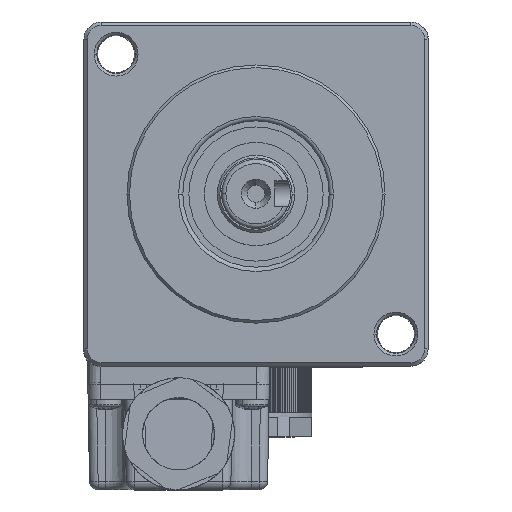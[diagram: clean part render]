
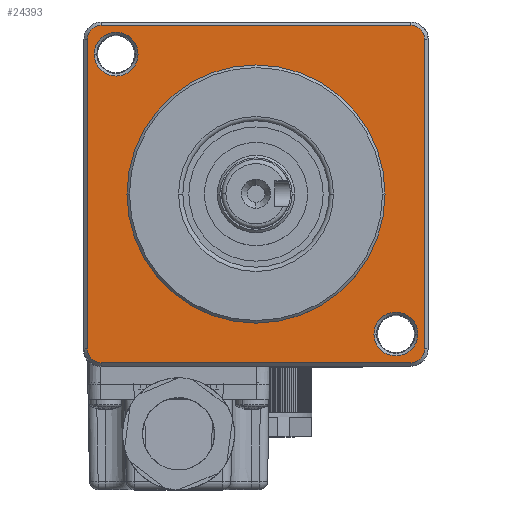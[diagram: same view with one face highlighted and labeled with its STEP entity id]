
A CAD part, top view. The second image highlights one B-rep face of the part: STEP entity #24393.
In plain terms, the highlighted planar face has unit normal (0, 0, 1).
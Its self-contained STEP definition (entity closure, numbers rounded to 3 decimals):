
#241 = EDGE_CURVE ( 'NONE', #67957, #12774, #49997, .T. ) ;
#278 = EDGE_CURVE ( 'NONE', #62401, #26087, #63991, .T. ) ;
#1220 = VERTEX_POINT ( 'NONE', #43561 ) ;
#1836 = DIRECTION ( 'NONE',  ( 1., 0., 0. ) ) ;
#2008 = EDGE_CURVE ( 'NONE', #62886, #67957, #4629, .T. ) ;
#2217 = CIRCLE ( 'NONE', #45152, 1.6 ) ;
#2393 = DIRECTION ( 'NONE',  ( 1., 0., 0. ) ) ;
#3080 = VECTOR ( 'NONE', #3566, 1000. ) ;
#3206 = AXIS2_PLACEMENT_3D ( 'NONE', #47846, #16298, #53107 ) ;
#3566 = DIRECTION ( 'NONE',  ( 1., 0., 0. ) ) ;
#3790 = AXIS2_PLACEMENT_3D ( 'NONE', #5331, #42102, #10603 ) ;
#3921 = VERTEX_POINT ( 'NONE', #47456 ) ;
#3958 = CIRCLE ( 'NONE', #3790, 2.55 ) ;
#4210 = CARTESIAN_POINT ( 'NONE',  ( 1.169, -18.047, 110. ) ) ;
#4629 = CIRCLE ( 'NONE', #42537, 1.6 ) ;
#4783 = ORIENTED_EDGE ( 'NONE', *, *, #52860, .F. ) ;
#5331 = CARTESIAN_POINT ( 'NONE',  ( -15.095, 17.817, 110. ) ) ;
#5695 = DIRECTION ( 'NONE',  ( 0., 0., 1. ) ) ;
#7079 = CARTESIAN_POINT ( 'NONE',  ( -16.831, -18.047, 110. ) ) ;
#7296 = CARTESIAN_POINT ( 'NONE',  ( 20.769, -16.447, 110. ) ) ;
#7355 = LINE ( 'NONE', #38043, #33640 ) ;
#9429 = AXIS2_PLACEMENT_3D ( 'NONE', #32770, #64439, #58972 ) ;
#9638 = VERTEX_POINT ( 'NONE', #55727 ) ;
#10175 = ORIENTED_EDGE ( 'NONE', *, *, #62814, .F. ) ;
#10603 = DIRECTION ( 'NONE',  ( 1., 0., 0. ) ) ;
#10720 = FACE_BOUND ( 'NONE', #61857, .T. ) ;
#10938 = EDGE_LOOP ( 'NONE', ( #4783, #25754, #53647, #11115, #61492, #49354, #51238, #40666 ) ) ;
#11115 = ORIENTED_EDGE ( 'NONE', *, *, #56154, .F. ) ;
#11189 = CARTESIAN_POINT ( 'NONE',  ( -18.431, 19.553, 110. ) ) ;
#11504 = CIRCLE ( 'NONE', #57834, 15. ) ;
#11889 = CIRCLE ( 'NONE', #64934, 15. ) ;
#12638 = CARTESIAN_POINT ( 'NONE',  ( 19.982, -14.71, 110. ) ) ;
#12774 = VERTEX_POINT ( 'NONE', #11189 ) ;
#12858 = CARTESIAN_POINT ( 'NONE',  ( -12.545, 17.817, 110. ) ) ;
#12930 = CARTESIAN_POINT ( 'NONE',  ( -13.831, 1.553, 110. ) ) ;
#13108 = EDGE_CURVE ( 'NONE', #9638, #23682, #44998, .T. ) ;
#15681 = DIRECTION ( 'NONE',  ( 0., 0., 1. ) ) ;
#16298 = DIRECTION ( 'NONE',  ( 0., 0., 1. ) ) ;
#16669 = DIRECTION ( 'NONE',  ( 0., 0., 1. ) ) ;
#17435 = LINE ( 'NONE', #4210, #28180 ) ;
#17908 = CARTESIAN_POINT ( 'NONE',  ( 19.169, -18.047, 110. ) ) ;
#18037 = CARTESIAN_POINT ( 'NONE',  ( 19.169, 19.553, 110. ) ) ;
#20616 = EDGE_LOOP ( 'NONE', ( #48180, #10175 ) ) ;
#22755 = CARTESIAN_POINT ( 'NONE',  ( -16.831, -16.447, 110. ) ) ;
#23326 = DIRECTION ( 'NONE',  ( 1., 0., 0. ) ) ;
#23682 = VERTEX_POINT ( 'NONE', #46009 ) ;
#24293 = AXIS2_PLACEMENT_3D ( 'NONE', #65365, #33864, #2393 ) ;
#24393 = ADVANCED_FACE ( 'NONE', ( #51018, #10720, #63361, #49379 ), #31645, .T. ) ;
#25754 = ORIENTED_EDGE ( 'NONE', *, *, #47053, .F. ) ;
#26087 = VERTEX_POINT ( 'NONE', #55669 ) ;
#27123 = ORIENTED_EDGE ( 'NONE', *, *, #49747, .F. ) ;
#28103 = DIRECTION ( 'NONE',  ( 1., 0., 0. ) ) ;
#28180 = VECTOR ( 'NONE', #67199, 1000. ) ;
#28793 = VERTEX_POINT ( 'NONE', #17908 ) ;
#29590 = DIRECTION ( 'NONE',  ( 0., 0., -1. ) ) ;
#31252 = CIRCLE ( 'NONE', #3206, 2.55 ) ;
#31645 = PLANE ( 'NONE',  #46365 ) ;
#31863 = CARTESIAN_POINT ( 'NONE',  ( 1.169, 1.553, 110. ) ) ;
#32770 = CARTESIAN_POINT ( 'NONE',  ( 17.432, -14.71, 110. ) ) ;
#33269 = DIRECTION ( 'NONE',  ( 0., 0., -1. ) ) ;
#33640 = VECTOR ( 'NONE', #43607, 1000. ) ;
#33864 = DIRECTION ( 'NONE',  ( 0., 0., 1. ) ) ;
#34857 = AXIS2_PLACEMENT_3D ( 'NONE', #64796, #33269, #1836 ) ;
#35988 = VECTOR ( 'NONE', #49848, 1000. ) ;
#36434 = EDGE_CURVE ( 'NONE', #65425, #3921, #31252, .T. ) ;
#37034 = EDGE_CURVE ( 'NONE', #1220, #58488, #7355, .T. ) ;
#37078 = CIRCLE ( 'NONE', #58756, 1.6 ) ;
#37446 = EDGE_CURVE ( 'NONE', #65795, #64903, #11504, .T. ) ;
#37639 = CARTESIAN_POINT ( 'NONE',  ( -18.431, -16.447, 110. ) ) ;
#38043 = CARTESIAN_POINT ( 'NONE',  ( 20.769, 1.553, 110. ) ) ;
#39141 = EDGE_CURVE ( 'NONE', #12774, #9638, #2217, .T. ) ;
#40666 = ORIENTED_EDGE ( 'NONE', *, *, #2008, .F. ) ;
#41003 = ORIENTED_EDGE ( 'NONE', *, *, #61810, .F. ) ;
#41636 = CIRCLE ( 'NONE', #24293, 2.55 ) ;
#42102 = DIRECTION ( 'NONE',  ( 0., 0., 1. ) ) ;
#42450 = DIRECTION ( 'NONE',  ( 1., 0., 0. ) ) ;
#42537 = AXIS2_PLACEMENT_3D ( 'NONE', #22755, #59555, #28103 ) ;
#43561 = CARTESIAN_POINT ( 'NONE',  ( 20.769, 19.553, 110. ) ) ;
#43607 = DIRECTION ( 'NONE',  ( 0., -1., 0. ) ) ;
#44998 = LINE ( 'NONE', #45601, #3080 ) ;
#45152 = AXIS2_PLACEMENT_3D ( 'NONE', #61061, #29590, #66380 ) ;
#45601 = CARTESIAN_POINT ( 'NONE',  ( 1.169, 21.153, 110. ) ) ;
#46009 = CARTESIAN_POINT ( 'NONE',  ( 19.169, 21.153, 110. ) ) ;
#46365 = AXIS2_PLACEMENT_3D ( 'NONE', #31863, #5695, #42450 ) ;
#47053 = EDGE_CURVE ( 'NONE', #58488, #28793, #54037, .T. ) ;
#47216 = CARTESIAN_POINT ( 'NONE',  ( 1.169, 1.553, 110. ) ) ;
#47456 = CARTESIAN_POINT ( 'NONE',  ( -17.645, 17.817, 110. ) ) ;
#47846 = CARTESIAN_POINT ( 'NONE',  ( -15.095, 17.817, 110. ) ) ;
#48149 = ORIENTED_EDGE ( 'NONE', *, *, #36434, .F. ) ;
#48180 = ORIENTED_EDGE ( 'NONE', *, *, #37446, .F. ) ;
#48222 = CARTESIAN_POINT ( 'NONE',  ( 1.169, 1.553, 110. ) ) ;
#49354 = ORIENTED_EDGE ( 'NONE', *, *, #39141, .F. ) ;
#49379 = FACE_BOUND ( 'NONE', #20616, .T. ) ;
#49747 = EDGE_CURVE ( 'NONE', #3921, #65425, #3958, .T. ) ;
#49848 = DIRECTION ( 'NONE',  ( 0., 1., 0. ) ) ;
#49997 = LINE ( 'NONE', #58468, #35988 ) ;
#51018 = FACE_BOUND ( 'NONE', #52689, .T. ) ;
#51238 = ORIENTED_EDGE ( 'NONE', *, *, #241, .F. ) ;
#52510 = DIRECTION ( 'NONE',  ( 1., 0., 0. ) ) ;
#52689 = EDGE_LOOP ( 'NONE', ( #48149, #27123 ) ) ;
#52860 = EDGE_CURVE ( 'NONE', #28793, #62886, #17435, .T. ) ;
#53107 = DIRECTION ( 'NONE',  ( 1., 0., 0. ) ) ;
#53485 = DIRECTION ( 'NONE',  ( 1., 0., 0. ) ) ;
#53647 = ORIENTED_EDGE ( 'NONE', *, *, #37034, .F. ) ;
#54037 = CIRCLE ( 'NONE', #34857, 1.6 ) ;
#54825 = DIRECTION ( 'NONE',  ( 0., 0., -1. ) ) ;
#55249 = ORIENTED_EDGE ( 'NONE', *, *, #278, .F. ) ;
#55669 = CARTESIAN_POINT ( 'NONE',  ( 14.882, -14.71, 110. ) ) ;
#55727 = CARTESIAN_POINT ( 'NONE',  ( -16.831, 21.153, 110. ) ) ;
#56154 = EDGE_CURVE ( 'NONE', #23682, #1220, #37078, .T. ) ;
#57834 = AXIS2_PLACEMENT_3D ( 'NONE', #47216, #15681, #52510 ) ;
#58468 = CARTESIAN_POINT ( 'NONE',  ( -18.431, 1.553, 110. ) ) ;
#58488 = VERTEX_POINT ( 'NONE', #7296 ) ;
#58756 = AXIS2_PLACEMENT_3D ( 'NONE', #18037, #54825, #23326 ) ;
#58874 = CARTESIAN_POINT ( 'NONE',  ( 16.169, 1.553, 110. ) ) ;
#58972 = DIRECTION ( 'NONE',  ( 1., 0., 0. ) ) ;
#59555 = DIRECTION ( 'NONE',  ( 0., 0., -1. ) ) ;
#61061 = CARTESIAN_POINT ( 'NONE',  ( -16.831, 19.553, 110. ) ) ;
#61492 = ORIENTED_EDGE ( 'NONE', *, *, #13108, .F. ) ;
#61810 = EDGE_CURVE ( 'NONE', #26087, #62401, #41636, .T. ) ;
#61857 = EDGE_LOOP ( 'NONE', ( #55249, #41003 ) ) ;
#62401 = VERTEX_POINT ( 'NONE', #12638 ) ;
#62814 = EDGE_CURVE ( 'NONE', #64903, #65795, #11889, .T. ) ;
#62886 = VERTEX_POINT ( 'NONE', #7079 ) ;
#63361 = FACE_OUTER_BOUND ( 'NONE', #10938, .T. ) ;
#63991 = CIRCLE ( 'NONE', #9429, 2.55 ) ;
#64439 = DIRECTION ( 'NONE',  ( 0., 0., 1. ) ) ;
#64796 = CARTESIAN_POINT ( 'NONE',  ( 19.169, -16.447, 110. ) ) ;
#64903 = VERTEX_POINT ( 'NONE', #12930 ) ;
#64934 = AXIS2_PLACEMENT_3D ( 'NONE', #48222, #16669, #53485 ) ;
#65365 = CARTESIAN_POINT ( 'NONE',  ( 17.432, -14.71, 110. ) ) ;
#65425 = VERTEX_POINT ( 'NONE', #12858 ) ;
#65795 = VERTEX_POINT ( 'NONE', #58874 ) ;
#66380 = DIRECTION ( 'NONE',  ( 1., 0., 0. ) ) ;
#67199 = DIRECTION ( 'NONE',  ( -1., 0., 0. ) ) ;
#67957 = VERTEX_POINT ( 'NONE', #37639 ) ;
